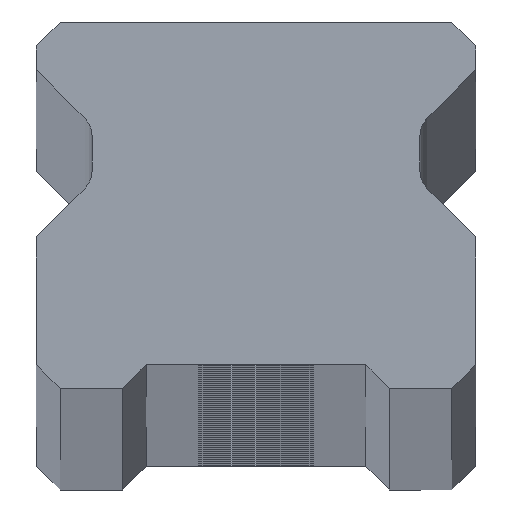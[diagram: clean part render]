
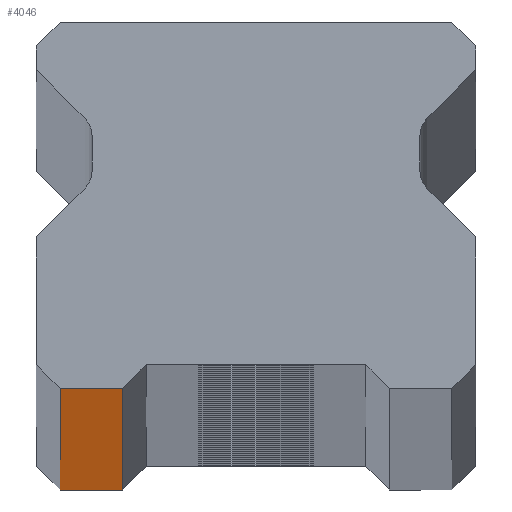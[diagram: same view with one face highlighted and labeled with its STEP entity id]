
A CAD part, top view. The second image highlights one B-rep face of the part: STEP entity #4046.
In plain terms, the highlighted planar face has unit normal (0, -1, 0).
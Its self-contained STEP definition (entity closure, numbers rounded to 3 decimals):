
#338 = DIRECTION ( 'NONE',  ( 1., 0., 0. ) ) ;
#350 = PLANE ( 'NONE',  #7693 ) ;
#414 = DIRECTION ( 'NONE',  ( -1., 0., 0. ) ) ;
#550 = CARTESIAN_POINT ( 'NONE',  ( -10.25, 0., 1520. ) ) ;
#1025 = DIRECTION ( 'NONE',  ( 0., 0., 1. ) ) ;
#1156 = CARTESIAN_POINT ( 'NONE',  ( 11.5, 0., 1520. ) ) ;
#1217 = ORIENTED_EDGE ( 'NONE', *, *, #4567, .T. ) ;
#1274 = EDGE_CURVE ( 'NONE', #3549, #7698, #6464, .T. ) ;
#1366 = DIRECTION ( 'NONE',  ( 0., 0., -1. ) ) ;
#1633 = VECTOR ( 'NONE', #1025, 1000. ) ;
#1678 = LINE ( 'NONE', #2196, #2546 ) ;
#1681 = ORIENTED_EDGE ( 'NONE', *, *, #8837, .F. ) ;
#2196 = CARTESIAN_POINT ( 'NONE',  ( -10.25, 0., 1520. ) ) ;
#2317 = ORIENTED_EDGE ( 'NONE', *, *, #1274, .T. ) ;
#2546 = VECTOR ( 'NONE', #1366, 1000. ) ;
#2611 = CARTESIAN_POINT ( 'NONE',  ( -7., 0., -1520. ) ) ;
#3269 = CARTESIAN_POINT ( 'NONE',  ( -7., 0., -1520. ) ) ;
#3549 = VERTEX_POINT ( 'NONE', #2611 ) ;
#3845 = CARTESIAN_POINT ( 'NONE',  ( -10.25, 0., -1520. ) ) ;
#4046 = ADVANCED_FACE ( 'NONE', ( #7811 ), #350, .F. ) ;
#4154 = VERTEX_POINT ( 'NONE', #550 ) ;
#4298 = CARTESIAN_POINT ( 'NONE',  ( 11.5, 0., -1520. ) ) ;
#4567 = EDGE_CURVE ( 'NONE', #9033, #3549, #8045, .T. ) ;
#5142 = CARTESIAN_POINT ( 'NONE',  ( 11.5, 0., 1520. ) ) ;
#6129 = ORIENTED_EDGE ( 'NONE', *, *, #7136, .T. ) ;
#6268 = EDGE_LOOP ( 'NONE', ( #1217, #2317, #1681, #6129 ) ) ;
#6464 = LINE ( 'NONE', #3269, #1633 ) ;
#6661 = DIRECTION ( 'NONE',  ( 0., 1., 0. ) ) ;
#7033 = LINE ( 'NONE', #1156, #8655 ) ;
#7136 = EDGE_CURVE ( 'NONE', #4154, #9033, #1678, .T. ) ;
#7693 = AXIS2_PLACEMENT_3D ( 'NONE', #5142, #6661, #414 ) ;
#7698 = VERTEX_POINT ( 'NONE', #7977 ) ;
#7811 = FACE_OUTER_BOUND ( 'NONE', #6268, .T. ) ;
#7923 = VECTOR ( 'NONE', #338, 1000. ) ;
#7977 = CARTESIAN_POINT ( 'NONE',  ( -7., 0., 1520. ) ) ;
#8045 = LINE ( 'NONE', #4298, #7923 ) ;
#8424 = DIRECTION ( 'NONE',  ( 1., 0., 0. ) ) ;
#8655 = VECTOR ( 'NONE', #8424, 1000. ) ;
#8837 = EDGE_CURVE ( 'NONE', #4154, #7698, #7033, .T. ) ;
#9033 = VERTEX_POINT ( 'NONE', #3845 ) ;
